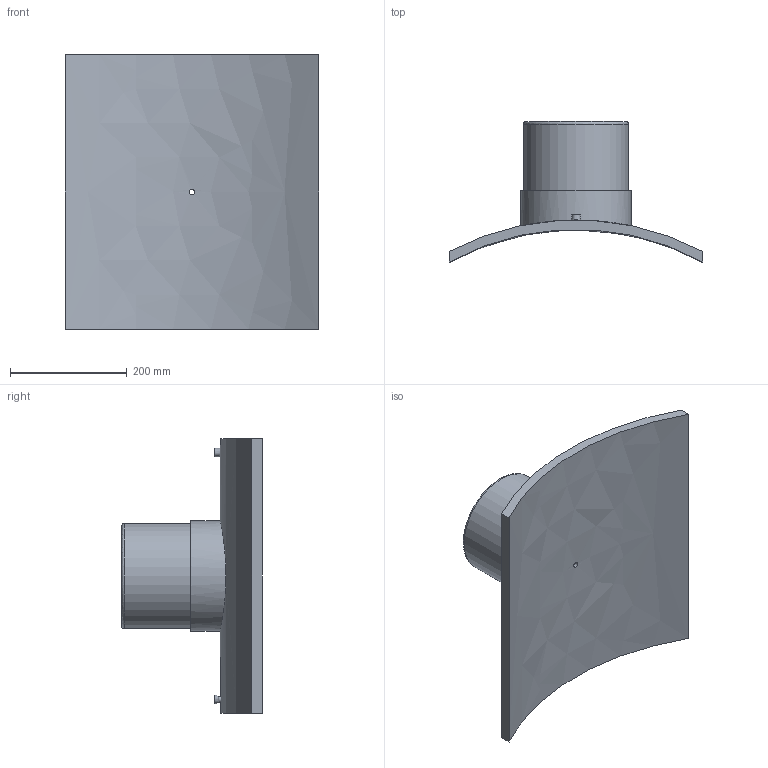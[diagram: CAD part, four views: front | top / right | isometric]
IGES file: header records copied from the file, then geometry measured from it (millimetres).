
Global section: file name: 495803900180T.ipt; native system: Autodesk Inventor 2019; preprocessor: unknown; author: KIM; date: 20210225.095236; units: millimetre
Bounding box: 435 x 241.05 x 470 mm (x, y, z)
Volume: 5139984.7 mm3; surface area: 642585.2 mm2
Topology: 2 solids, 2 shells, 29 faces, 54 edges, 38 vertices
Faces by surface type: plane 13, revolution 7, cylinder 7, cone 2
Full cylindrical faces by diameter (mm): 4 x2, 16 x1, 180 x1, 189 x1
